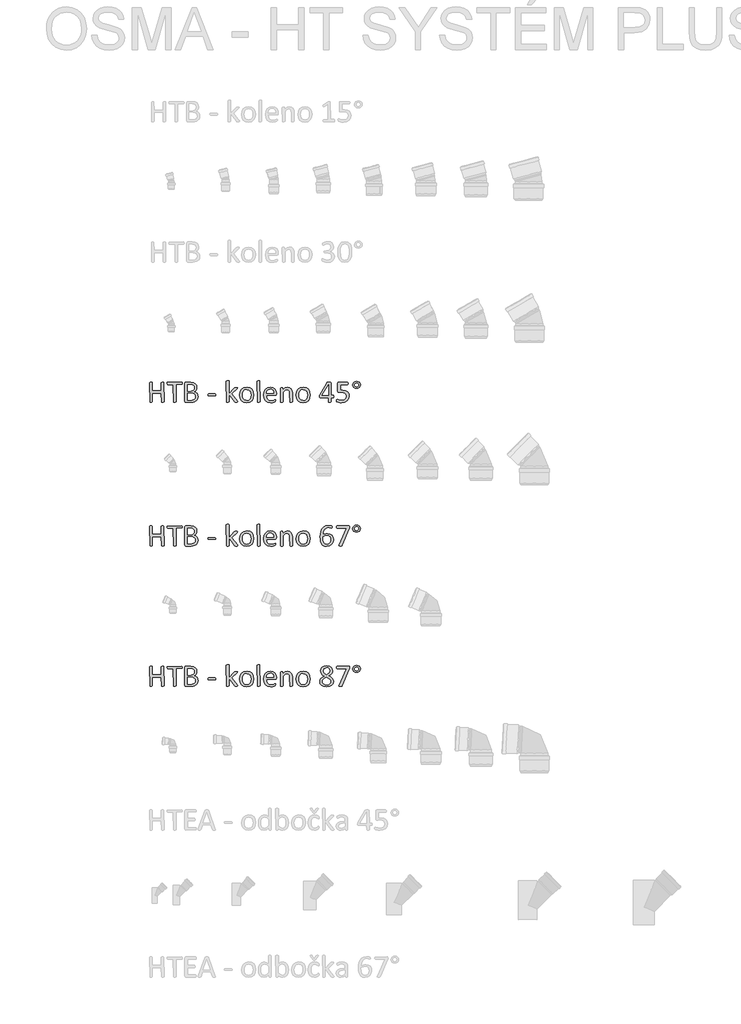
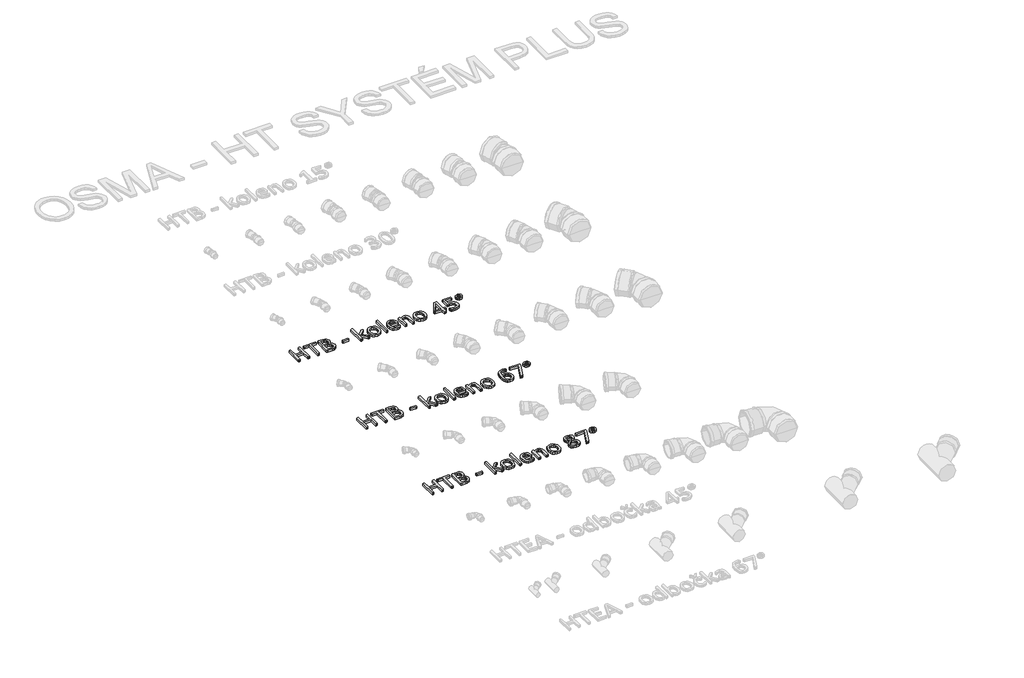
# One storey, part 24 of 26: 3 proxies.
"""IFC4 building model written with IfcOpenShell, lengths in millimetres."""

from ifc_helpers import new_model, si_unit, origin, origin_with_axes, place, context, project, spatial, polyline, outline, extrude, element, save

model = new_model("IFC4")

# Units and contexts
model_context = context("Model", 3, world=origin())
ifc_project = project(units=[si_unit("LENGTHUNIT", "METRE", prefix="MILLI")], contexts=[model_context])

# Site, building, storey
site = spatial("IfcSite", under=ifc_project)
building = spatial("IfcBuilding", under=site)
storey = spatial("IfcBuildingStorey", under=building, Name="Podlaží 1", Elevation=0.0)

# Proxies
placement = place(None, origin())
element("IfcBuildingElementProxy", 1, Name="120mm Arial", ObjectType="120mm Arial", at=placement, inside=storey, context=model_context, shape_type="SweptSolid", body=[
    extrude(outline(polyline([(-20465.0657483, 20468.0506997), (-20469.2817655, 20465.3184311), (-20473.1358927, 20465.0832026), (-20477.1166815, 20465.3184311), (-20479.5775327, 20465.8612659), (-20481.2784151, 20520.6694889), (-20534.5486061, 20520.6694889), (-20534.5486061, 20468.0145107), (-20538.7465288, 20465.3184311), (-20542.6549395, 20465.0832026), (-20546.5271613, 20465.3184311), (-20549.0603905, 20465.8793604), (-20550.7612729, 20582.5526591), (-20546.5271613, 20585.2849277), (-20542.6549395, 20585.5201562), (-20538.7465288, 20585.2849277), (-20536.2494886, 20584.7239984), (-20534.5486061, 20534.5660604), (-20481.2784151, 20534.5660604), (-20481.2784151, 20582.5526591), (-20477.1166815, 20585.2849277), (-20473.1358927, 20585.5201562), (-20469.2817655, 20585.2849277), (-20466.7666308, 20584.7239984), (-20465.0657483, 20468.0506997)])), origin_with_axes(), (0.0, 0.0, 1.0), 15.0),
    extrude(outline(polyline([(-20356.2092711, 20578.4633034), (-20356.390216, 20575.3329559), (-20356.9873343, 20573.1978056), (-20393.2667952, 20571.6235846), (-20393.2667952, 20468.0506997), (-20397.4647179, 20465.3184311), (-20401.3731287, 20465.0832026), (-20405.2453504, 20465.3184311), (-20407.7785796, 20465.8793604), (-20409.4794621, 20571.6235846), (-20443.3885442, 20571.6235846), (-20446.3017578, 20575.3329559), (-20446.5369862, 20578.4633034), (-20446.3017578, 20581.6660289), (-20445.686545, 20583.9097462), (-20359.3939021, 20585.5201562), (-20357.0054288, 20583.9097462), (-20356.390216, 20581.6660289), (-20356.2092711, 20578.4633034)])), origin_with_axes(), (0.0, 0.0, 1.0), 15.0),
    extrude(outline(polyline([(-20261.2493654, 20499.1370408), (-20262.6788305, 20488.8231791), (-20266.6958082, 20480.3187668), (-20272.9203142, 20473.7142764), (-20281.1352146, 20468.9373299), (-20290.9243359, 20466.0422108), (-20302.8667021, 20465.0832026), (-20334.0977991, 20465.0832026), (-20338.0966824, 20466.5307622), (-20339.9966043, 20471.5972206), (-20339.9966043, 20579.0061382), (-20338.0785879, 20584.0725966), (-20334.0254212, 20585.5201562), (-20306.6665459, 20585.5201562), (-20288.9520361, 20583.4392893), (-20277.4620322, 20577.3957283), (-20270.531841, 20567.6608904), (-20268.1976512, 20554.61476), (-20269.2290374, 20546.3093872), (-20272.2508179, 20538.981117), (-20277.2810873, 20532.9737449), (-20284.2293731, 20528.6310663), (-20275.2545039, 20525.2835849), (-20267.9805173, 20519.0771734), (-20263.0588148, 20510.2651547), (-20261.2493654, 20499.1370408)]), holes=[polyline([(-20284.410318, 20552.4434207), (-20285.6226491, 20560.4411872), (-20289.4224929, 20566.5028427), (-20296.1898338, 20570.3026865), (-20307.2455697, 20571.6235846), (-20323.7839374, 20571.6235846), (-20323.7839374, 20532.2499652), (-20305.5808763, 20532.2499652), (-20295.5565265, 20533.8965641), (-20289.241548, 20538.3116207), (-20285.5683657, 20544.7894497), (-20284.410318, 20552.4434207)]), polyline([(-20277.4620322, 20498.9922848), (-20279.1629147, 20508.3290438), (-20284.1389006, 20515.0963847), (-20292.353801, 20519.2581183), (-20304.7847185, 20520.6694889), (-20323.7839374, 20520.6694889), (-20323.7839374, 20478.9797742), (-20300.7315518, 20478.9797742), (-20291.2138479, 20480.2644833), (-20284.0665226, 20484.0643271), (-20279.2171982, 20490.3250221), (-20277.4620322, 20498.9922848)])]), origin_with_axes(), (0.0, 0.0, 1.0), 15.0),
    extrude(outline(polyline([(-20154.7089835, 20510.2832492), (-20155.5594247, 20505.7234367), (-20158.0383704, 20504.4568221), (-20197.6291238, 20504.4568221), (-20200.1804474, 20505.7596256), (-20201.0308887, 20510.2832492), (-20200.1804474, 20514.7706838), (-20197.6291238, 20516.0372984), (-20158.0383704, 20516.0372984), (-20154.9442119, 20512.9974233), (-20154.7089835, 20510.2832492)])), origin_with_axes(), (0.0, 0.0, 1.0), 15.0),
    extrude(outline(polyline([(-20022.6915536, 20468.0145107), (-20026.7628148, 20465.2641476), (-20030.7616981, 20465.0832026), (-20034.8872427, 20465.2279586), (-20037.6376059, 20465.6803209), (-20039.4470553, 20466.5850457), (-20040.7136699, 20468.0145107), (-20075.9617446, 20513.5764471), (-20075.9617446, 20467.9059437), (-20080.0872893, 20465.2641476), (-20084.104267, 20465.0832026), (-20088.0488668, 20465.2641476), (-20090.545907, 20465.8250769), (-20092.1744114, 20591.8170401), (-20088.0488668, 20594.6035923), (-20084.104267, 20594.7845372), (-20080.0872893, 20594.6035923), (-20077.6445326, 20594.0426629), (-20076.3598235, 20593.1017492), (-20075.9617446, 20515.6754085), (-20043.7535449, 20549.9101915), (-20042.1431349, 20551.4120346), (-20040.1165516, 20552.4072317), (-20037.3299995, 20552.9500666), (-20033.4396832, 20553.0948225), (-20029.4588945, 20552.9500666), (-20026.8713818, 20552.4977042), (-20025.4419168, 20551.683452), (-20025.6409562, 20548.1550256), (-20027.758012, 20545.6037019), (-20059.7490778, 20515.7839754), (-20024.9714599, 20472.3210003), (-20023.216294, 20469.8058656), (-20022.6915536, 20468.0145107)])), origin_with_axes(), (0.0, 0.0, 1.0), 15.0),
    extrude(outline(polyline([(-19927.731648, 20509.9937373), (-19930.4096331, 20491.0126129), (-19938.4254941, 20476.0665606), (-19951.7792308, 20466.2774393), (-19970.3622764, 20462.7671074), (-19988.2758256, 20465.8612659), (-20001.0143496, 20474.8542295), (-20008.6140371, 20489.1850689), (-20011.1110773, 20508.2928548), (-20008.4692812, 20527.2739793), (-20000.5077037, 20542.201937), (-19987.2082505, 20551.9367749), (-19968.5890159, 20555.4109178), (-19950.6573722, 20552.3167593), (-19937.9188482, 20543.3237956), (-19930.2829717, 20528.9929562), (-19927.731648, 20509.9937373)]), holes=[polyline([(-19943.9443148, 20508.9080676), (-19945.1928349, 20521.4837411), (-19949.3002851, 20531.8699808), (-19957.0266341, 20538.9268335), (-19969.2042287, 20541.5143462), (-19980.7666105, 20539.1439675), (-19988.728188, 20532.4490046), (-19993.378473, 20522.2075209), (-19994.8984105, 20509.2699575), (-19993.6498904, 20496.6219061), (-19989.5062512, 20486.2718554), (-19981.7256187, 20479.2511916), (-19969.5661186, 20476.6636789), (-19958.0399258, 20479.0340577), (-19950.0240649, 20485.6747371), (-19945.4099688, 20495.8800318), (-19943.9443148, 20508.9080676)])]), origin_with_axes(), (0.0, 0.0, 1.0), 15.0),
    extrude(outline(polyline([(-19890.6741238, 20467.9421327), (-19894.7996685, 20465.2641476), (-19898.8166462, 20465.0832026), (-19902.761246, 20465.2641476), (-19905.2582862, 20465.8250769), (-19906.8867906, 20591.8170401), (-19902.761246, 20594.6035923), (-19898.8166462, 20594.7845372), (-19894.7996685, 20594.6035923), (-19892.3569118, 20594.0426629), (-19890.6741238, 20467.9421327)])), origin_with_axes(), (0.0, 0.0, 1.0), 15.0),
    extrude(outline(polyline([(-19791.0820276, 20513.3955022), (-19792.8733826, 20508.2928548), (-19796.9808328, 20506.7729173), (-19851.3005044, 20506.7729173), (-19849.9434173, 20493.3829916), (-19845.4378883, 20483.1776969), (-19837.2229879, 20476.6274899), (-19824.8463539, 20474.3475837), (-19814.5686811, 20475.4151588), (-19806.7518596, 20477.8217266), (-19801.3416059, 20480.2282943), (-19798.1388804, 20481.2958695), (-19795.8408796, 20478.4007504), (-19795.7142182, 20475.7589542), (-19795.8046906, 20473.8228433), (-19800.2559362, 20468.4306841), (-19806.6071037, 20465.9336439), (-19815.6543508, 20463.7442101), (-19826.6196143, 20462.7671074), (-19844.2979351, 20465.6622265), (-19857.0545536, 20474.2752057), (-19864.8713751, 20488.6241396), (-19867.5131712, 20508.6547447), (-19864.7447136, 20528.1967985), (-19856.7650417, 20542.8895278), (-19844.1712737, 20552.1720033), (-19827.632906, 20555.4109178), (-19810.9859713, 20552.2805703), (-19799.6769124, 20543.848536), (-19793.1628945, 20531.4176184), (-19791.0820276, 20516.1820543), (-19791.0820276, 20513.3955022)]), holes=[polyline([(-19807.2946945, 20518.3533936), (-19808.466313, 20528.9793853), (-19812.4878143, 20537.0450061), (-19819.2596788, 20542.1340826), (-19828.6823866, 20543.8304415), (-19838.326752, 20541.7314801), (-19845.2569433, 20536.1402814), (-19849.5815275, 20528.0158535), (-19851.3005044, 20518.3533936), (-19807.2946945, 20518.3533936)])]), origin_with_axes(), (0.0, 0.0, 1.0), 15.0),
    extrude(outline(polyline([(-19696.122122, 20467.9421327), (-19700.2476667, 20465.2641476), (-19704.1922664, 20465.0832026), (-19708.2092441, 20465.2641476), (-19710.6520008, 20465.8069824), (-19712.3347888, 20516.2906213), (-19713.402364, 20527.6539636), (-19716.4965225, 20535.0908008), (-19721.7620203, 20539.8677472), (-19729.2350464, 20541.5143462), (-19740.2184044, 20537.479274), (-19751.7084082, 20525.6273803), (-19751.7084082, 20467.9421327), (-19755.8339529, 20465.2641476), (-19759.8509306, 20465.0832026), (-19763.7955304, 20465.2641476), (-19766.2925706, 20465.8069824), (-19767.921075, 20550.2720814), (-19764.1936092, 20552.9500666), (-19760.5385214, 20553.0948225), (-19756.9558115, 20552.9500666), (-19754.7482833, 20552.4072317), (-19753.2645347, 20539.3791959), (-19739.4222466, 20551.5567905), (-19725.5075806, 20555.4109178), (-19711.683387, 20552.5881767), (-19702.5999509, 20545.0427726), (-19697.623965, 20533.9870366), (-19696.122122, 20518.7514725), (-19696.122122, 20467.9421327)])), origin_with_axes(), (0.0, 0.0, 1.0), 15.0),
    extrude(outline(polyline([(-19589.58174, 20509.9937373), (-19592.2597252, 20491.0126129), (-19600.2755861, 20476.0665606), (-19613.6293228, 20466.2774393), (-19632.2123684, 20462.7671074), (-19650.1259177, 20465.8612659), (-19662.8644416, 20474.8542295), (-19670.4641292, 20489.1850689), (-19672.9611694, 20508.2928548), (-19670.3193732, 20527.2739793), (-19662.3577958, 20542.201937), (-19649.0583425, 20551.9367749), (-19630.439108, 20555.4109178), (-19612.5074642, 20552.3167593), (-19599.7689403, 20543.3237956), (-19592.1330637, 20528.9929562), (-19589.58174, 20509.9937373)]), holes=[polyline([(-19605.7944068, 20508.9080676), (-19607.0429269, 20521.4837411), (-19611.1503771, 20531.8699808), (-19618.8767262, 20538.9268335), (-19631.0543208, 20541.5143462), (-19642.6167026, 20539.1439675), (-19650.57828, 20532.4490046), (-19655.228565, 20522.2075209), (-19656.7485026, 20509.2699575), (-19655.4999825, 20496.6219061), (-19651.3563433, 20486.2718554), (-19643.5757108, 20479.2511916), (-19631.4162107, 20476.6636789), (-19619.8900178, 20479.0340577), (-19611.8741569, 20485.6747371), (-19607.2600609, 20495.8800318), (-19605.7944068, 20508.9080676)])]), origin_with_axes(), (0.0, 0.0, 1.0), 15.0),
    extrude(outline(polyline([(-19447.4313934, 20499.8246315), (-19448.3723071, 20494.7400787), (-19450.9779143, 20492.8763458), (-19464.512596, 20492.8763458), (-19464.512596, 20467.9421327), (-19466.2496674, 20465.8069824), (-19468.7828966, 20465.2641476), (-19472.7636853, 20465.0832026), (-19476.6359071, 20465.2641476), (-19479.1148528, 20465.8069824), (-19480.7252628, 20492.8763458), (-19529.7613421, 20492.8763458), (-19531.6069805, 20493.1658577), (-19532.9278786, 20494.2334328), (-19533.7602254, 20496.4590556), (-19533.9954538, 20500.2227104), (-19533.9049813, 20503.5159084), (-19533.5430914, 20506.175799), (-19532.8012172, 20508.4918943), (-19531.7155475, 20510.862273), (-19488.9763522, 20582.6974151), (-19487.6011706, 20583.9640297), (-19485.2488864, 20584.8687544), (-19481.7023655, 20585.3754002), (-19476.7444741, 20585.5201562), (-19471.2437478, 20585.2849277), (-19467.4619985, 20584.6878094), (-19465.2725647, 20583.7288012), (-19464.512596, 20506.7729173), (-19450.9779143, 20506.7729173), (-19448.4084961, 20505.0539404), (-19447.4313934, 20499.8246315)]), holes=[polyline([(-19480.7252628, 20571.5873956), (-19519.4474804, 20506.7729173), (-19480.7252628, 20506.7729173), (-19480.7252628, 20571.5873956)])]), origin_with_axes(), (0.0, 0.0, 1.0), 15.0),
    extrude(outline(polyline([(-19355.6561188, 20502.7197506), (-19358.9312222, 20485.7290205), (-19368.1956033, 20473.189536), (-19382.4540647, 20465.426998), (-19400.8561653, 20462.7671074), (-19411.5138224, 20463.5632651), (-19420.4886915, 20465.535565), (-19426.948426, 20467.8335658), (-19430.169246, 20469.6249207), (-19431.9967899, 20474.2209222), (-19432.0872623, 20477.1341358), (-19431.9425064, 20479.9930659), (-19431.4177661, 20482.0558382), (-19426.4055912, 20482.5262951), (-19421.0496209, 20480.1740108), (-19412.708059, 20477.7855376), (-19400.8923543, 20476.6636789), (-19389.2214055, 20478.129333), (-19380.083686, 20482.743429), (-19374.0582194, 20490.6326285), (-19371.8687856, 20502.1769158), (-19373.6963295, 20512.2736436), (-19379.3056227, 20519.5476302), (-19388.8957046, 20523.8722144), (-19402.7741817, 20525.3016794), (-19412.5994921, 20524.7407501), (-19420.2534631, 20524.1798208), (-19424.0171179, 20525.3921519), (-19425.1389766, 20530.0786259), (-19425.1389766, 20579.4404061), (-19423.691417, 20584.0183131), (-19419.5296834, 20585.5201562), (-19366.1509254, 20585.5201562), (-19363.5453182, 20583.8554627), (-19362.839633, 20581.7203124), (-19362.6044045, 20578.6804373), (-19363.4910348, 20573.469223), (-19365.9699805, 20571.6235846), (-19408.9263097, 20571.6235846), (-19408.9263097, 20536.2307539), (-19402.5751423, 20536.7916832), (-19395.1021162, 20536.8821557), (-19377.8942522, 20534.439399), (-19365.6261851, 20527.5453967), (-19358.189348, 20516.7610781), (-19355.6561188, 20502.7197506)])), origin_with_axes(), (0.0, 0.0, 1.0), 15.0),
    extrude(outline(polyline([(-19288.4893562, 20569.6693792), (-19290.2445222, 20561.4001954), (-19295.1843191, 20554.61476), (-19302.6754397, 20550.073042), (-19312.0121987, 20548.462632), (-19321.2042018, 20549.9463805), (-19328.3696215, 20554.1262087), (-19333.110379, 20560.5859431), (-19334.8112614, 20568.9455995), (-19333.001812, 20577.4500117), (-19328.0258261, 20584.1449746), (-19320.588989, 20588.5419367), (-19311.2884189, 20590.1523467), (-19302.1506994, 20588.6324092), (-19294.9309962, 20584.452581), (-19290.1902387, 20578.0290355), (-19288.4893562, 20569.6693792)]), holes=[polyline([(-19300.0698325, 20569.3436783), (-19300.9383682, 20573.9396799), (-19303.3630305, 20577.6128622), (-19307.0724018, 20580.0194299), (-19311.7588758, 20580.8879656), (-19316.2824993, 20580.0194299), (-19319.9375872, 20577.6128622), (-19322.3622494, 20573.9939633), (-19323.2307851, 20569.5246233), (-19322.3622494, 20564.7114878), (-19319.8833037, 20561.0021165), (-19316.0834599, 20558.5955488), (-19311.3607969, 20557.727013), (-19306.9276458, 20558.6317377), (-19303.3268415, 20561.1287779), (-19300.9383682, 20564.8019603), (-19300.0698325, 20569.3436783)])]), origin_with_axes(), (0.0, 0.0, 1.0), 15.0),
])
element("IfcBuildingElementProxy", 2, Name="120mm Arial", ObjectType="120mm Arial", at=placement, inside=storey, context=model_context, shape_type="SweptSolid", body=[
    extrude(outline(polyline([(-20465.0657483, 19608.0506997), (-20469.2817655, 19605.3184311), (-20473.1358927, 19605.0832026), (-20477.1166815, 19605.3184311), (-20479.5775327, 19605.8612659), (-20481.2784151, 19660.6694889), (-20534.5486061, 19660.6694889), (-20534.5486061, 19608.0145107), (-20538.7465288, 19605.3184311), (-20542.6549395, 19605.0832026), (-20546.5271613, 19605.3184311), (-20549.0603905, 19605.8793604), (-20550.7612729, 19722.5526591), (-20546.5271613, 19725.2849277), (-20542.6549395, 19725.5201562), (-20538.7465288, 19725.2849277), (-20536.2494886, 19724.7239984), (-20534.5486061, 19674.5660604), (-20481.2784151, 19674.5660604), (-20481.2784151, 19722.5526591), (-20477.1166815, 19725.2849277), (-20473.1358927, 19725.5201562), (-20469.2817655, 19725.2849277), (-20466.7666308, 19724.7239984), (-20465.0657483, 19608.0506997)])), origin_with_axes(), (0.0, 0.0, 1.0), 15.0),
    extrude(outline(polyline([(-20356.2092711, 19718.4633034), (-20356.390216, 19715.3329559), (-20356.9873343, 19713.1978056), (-20393.2667952, 19711.6235846), (-20393.2667952, 19608.0506997), (-20397.4647179, 19605.3184311), (-20401.3731287, 19605.0832026), (-20405.2453504, 19605.3184311), (-20407.7785796, 19605.8793604), (-20409.4794621, 19711.6235846), (-20443.3885442, 19711.6235846), (-20446.3017578, 19715.3329559), (-20446.5369862, 19718.4633034), (-20446.3017578, 19721.6660289), (-20445.686545, 19723.9097462), (-20359.3939021, 19725.5201562), (-20357.0054288, 19723.9097462), (-20356.390216, 19721.6660289), (-20356.2092711, 19718.4633034)])), origin_with_axes(), (0.0, 0.0, 1.0), 15.0),
    extrude(outline(polyline([(-20261.2493654, 19639.1370408), (-20262.6788305, 19628.8231791), (-20266.6958082, 19620.3187668), (-20272.9203142, 19613.7142764), (-20281.1352146, 19608.9373299), (-20290.9243359, 19606.0422108), (-20302.8667021, 19605.0832026), (-20334.0977991, 19605.0832026), (-20338.0966824, 19606.5307622), (-20339.9966043, 19611.5972206), (-20339.9966043, 19719.0061382), (-20338.0785879, 19724.0725966), (-20334.0254212, 19725.5201562), (-20306.6665459, 19725.5201562), (-20288.9520361, 19723.4392893), (-20277.4620322, 19717.3957283), (-20270.531841, 19707.6608904), (-20268.1976512, 19694.61476), (-20269.2290374, 19686.3093872), (-20272.2508179, 19678.981117), (-20277.2810873, 19672.9737449), (-20284.2293731, 19668.6310663), (-20275.2545039, 19665.2835849), (-20267.9805173, 19659.0771734), (-20263.0588148, 19650.2651547), (-20261.2493654, 19639.1370408)]), holes=[polyline([(-20284.410318, 19692.4434207), (-20285.6226491, 19700.4411872), (-20289.4224929, 19706.5028427), (-20296.1898338, 19710.3026865), (-20307.2455697, 19711.6235846), (-20323.7839374, 19711.6235846), (-20323.7839374, 19672.2499652), (-20305.5808763, 19672.2499652), (-20295.5565265, 19673.8965641), (-20289.241548, 19678.3116207), (-20285.5683657, 19684.7894497), (-20284.410318, 19692.4434207)]), polyline([(-20277.4620322, 19638.9922848), (-20279.1629147, 19648.3290438), (-20284.1389006, 19655.0963847), (-20292.353801, 19659.2581183), (-20304.7847185, 19660.6694889), (-20323.7839374, 19660.6694889), (-20323.7839374, 19618.9797742), (-20300.7315518, 19618.9797742), (-20291.2138479, 19620.2644833), (-20284.0665226, 19624.0643271), (-20279.2171982, 19630.3250221), (-20277.4620322, 19638.9922848)])]), origin_with_axes(), (0.0, 0.0, 1.0), 15.0),
    extrude(outline(polyline([(-20154.7089835, 19650.2832492), (-20155.5594247, 19645.7234367), (-20158.0383704, 19644.4568221), (-20197.6291238, 19644.4568221), (-20200.1804474, 19645.7596256), (-20201.0308887, 19650.2832492), (-20200.1804474, 19654.7706838), (-20197.6291238, 19656.0372984), (-20158.0383704, 19656.0372984), (-20154.9442119, 19652.9974233), (-20154.7089835, 19650.2832492)])), origin_with_axes(), (0.0, 0.0, 1.0), 15.0),
    extrude(outline(polyline([(-20022.6915536, 19608.0145107), (-20026.7628148, 19605.2641476), (-20030.7616981, 19605.0832026), (-20034.8872427, 19605.2279586), (-20037.6376059, 19605.6803209), (-20039.4470553, 19606.5850457), (-20040.7136699, 19608.0145107), (-20075.9617446, 19653.5764471), (-20075.9617446, 19607.9059437), (-20080.0872893, 19605.2641476), (-20084.104267, 19605.0832026), (-20088.0488668, 19605.2641476), (-20090.545907, 19605.8250769), (-20092.1744114, 19731.8170401), (-20088.0488668, 19734.6035923), (-20084.104267, 19734.7845372), (-20080.0872893, 19734.6035923), (-20077.6445326, 19734.0426629), (-20076.3598235, 19733.1017492), (-20075.9617446, 19655.6754085), (-20043.7535449, 19689.9101915), (-20042.1431349, 19691.4120346), (-20040.1165516, 19692.4072317), (-20037.3299995, 19692.9500666), (-20033.4396832, 19693.0948225), (-20029.4588945, 19692.9500666), (-20026.8713818, 19692.4977042), (-20025.4419168, 19691.683452), (-20025.6409562, 19688.1550256), (-20027.758012, 19685.6037019), (-20059.7490778, 19655.7839754), (-20024.9714599, 19612.3210003), (-20023.216294, 19609.8058656), (-20022.6915536, 19608.0145107)])), origin_with_axes(), (0.0, 0.0, 1.0), 15.0),
    extrude(outline(polyline([(-19927.731648, 19649.9937373), (-19930.4096331, 19631.0126129), (-19938.4254941, 19616.0665606), (-19951.7792308, 19606.2774393), (-19970.3622764, 19602.7671074), (-19988.2758256, 19605.8612659), (-20001.0143496, 19614.8542295), (-20008.6140371, 19629.1850689), (-20011.1110773, 19648.2928548), (-20008.4692812, 19667.2739793), (-20000.5077037, 19682.201937), (-19987.2082505, 19691.9367749), (-19968.5890159, 19695.4109178), (-19950.6573722, 19692.3167593), (-19937.9188482, 19683.3237956), (-19930.2829717, 19668.9929562), (-19927.731648, 19649.9937373)]), holes=[polyline([(-19943.9443148, 19648.9080676), (-19945.1928349, 19661.4837411), (-19949.3002851, 19671.8699808), (-19957.0266341, 19678.9268335), (-19969.2042287, 19681.5143462), (-19980.7666105, 19679.1439675), (-19988.728188, 19672.4490046), (-19993.378473, 19662.2075209), (-19994.8984105, 19649.2699575), (-19993.6498904, 19636.6219061), (-19989.5062512, 19626.2718554), (-19981.7256187, 19619.2511916), (-19969.5661186, 19616.6636789), (-19958.0399258, 19619.0340577), (-19950.0240649, 19625.6747371), (-19945.4099688, 19635.8800318), (-19943.9443148, 19648.9080676)])]), origin_with_axes(), (0.0, 0.0, 1.0), 15.0),
    extrude(outline(polyline([(-19890.6741238, 19607.9421327), (-19894.7996685, 19605.2641476), (-19898.8166462, 19605.0832026), (-19902.761246, 19605.2641476), (-19905.2582862, 19605.8250769), (-19906.8867906, 19731.8170401), (-19902.761246, 19734.6035923), (-19898.8166462, 19734.7845372), (-19894.7996685, 19734.6035923), (-19892.3569118, 19734.0426629), (-19890.6741238, 19607.9421327)])), origin_with_axes(), (0.0, 0.0, 1.0), 15.0),
    extrude(outline(polyline([(-19791.0820276, 19653.3955022), (-19792.8733826, 19648.2928548), (-19796.9808328, 19646.7729173), (-19851.3005044, 19646.7729173), (-19849.9434173, 19633.3829916), (-19845.4378883, 19623.1776969), (-19837.2229879, 19616.6274899), (-19824.8463539, 19614.3475837), (-19814.5686811, 19615.4151588), (-19806.7518596, 19617.8217266), (-19801.3416059, 19620.2282943), (-19798.1388804, 19621.2958695), (-19795.8408796, 19618.4007504), (-19795.7142182, 19615.7589542), (-19795.8046906, 19613.8228433), (-19800.2559362, 19608.4306841), (-19806.6071037, 19605.9336439), (-19815.6543508, 19603.7442101), (-19826.6196143, 19602.7671074), (-19844.2979351, 19605.6622265), (-19857.0545536, 19614.2752057), (-19864.8713751, 19628.6241396), (-19867.5131712, 19648.6547447), (-19864.7447136, 19668.1967985), (-19856.7650417, 19682.8895278), (-19844.1712737, 19692.1720033), (-19827.632906, 19695.4109178), (-19810.9859713, 19692.2805703), (-19799.6769124, 19683.848536), (-19793.1628945, 19671.4176184), (-19791.0820276, 19656.1820543), (-19791.0820276, 19653.3955022)]), holes=[polyline([(-19807.2946945, 19658.3533936), (-19808.466313, 19668.9793853), (-19812.4878143, 19677.0450061), (-19819.2596788, 19682.1340826), (-19828.6823866, 19683.8304415), (-19838.326752, 19681.7314801), (-19845.2569433, 19676.1402814), (-19849.5815275, 19668.0158535), (-19851.3005044, 19658.3533936), (-19807.2946945, 19658.3533936)])]), origin_with_axes(), (0.0, 0.0, 1.0), 15.0),
    extrude(outline(polyline([(-19696.122122, 19607.9421327), (-19700.2476667, 19605.2641476), (-19704.1922664, 19605.0832026), (-19708.2092441, 19605.2641476), (-19710.6520008, 19605.8069824), (-19712.3347888, 19656.2906213), (-19713.402364, 19667.6539636), (-19716.4965225, 19675.0908008), (-19721.7620203, 19679.8677472), (-19729.2350464, 19681.5143462), (-19740.2184044, 19677.479274), (-19751.7084082, 19665.6273803), (-19751.7084082, 19607.9421327), (-19755.8339529, 19605.2641476), (-19759.8509306, 19605.0832026), (-19763.7955304, 19605.2641476), (-19766.2925706, 19605.8069824), (-19767.921075, 19690.2720814), (-19764.1936092, 19692.9500666), (-19760.5385214, 19693.0948225), (-19756.9558115, 19692.9500666), (-19754.7482833, 19692.4072317), (-19753.2645347, 19679.3791959), (-19739.4222466, 19691.5567905), (-19725.5075806, 19695.4109178), (-19711.683387, 19692.5881767), (-19702.5999509, 19685.0427726), (-19697.623965, 19673.9870366), (-19696.122122, 19658.7514725), (-19696.122122, 19607.9421327)])), origin_with_axes(), (0.0, 0.0, 1.0), 15.0),
    extrude(outline(polyline([(-19589.58174, 19649.9937373), (-19592.2597252, 19631.0126129), (-19600.2755861, 19616.0665606), (-19613.6293228, 19606.2774393), (-19632.2123684, 19602.7671074), (-19650.1259177, 19605.8612659), (-19662.8644416, 19614.8542295), (-19670.4641292, 19629.1850689), (-19672.9611694, 19648.2928548), (-19670.3193732, 19667.2739793), (-19662.3577958, 19682.201937), (-19649.0583425, 19691.9367749), (-19630.439108, 19695.4109178), (-19612.5074642, 19692.3167593), (-19599.7689403, 19683.3237956), (-19592.1330637, 19668.9929562), (-19589.58174, 19649.9937373)]), holes=[polyline([(-19605.7944068, 19648.9080676), (-19607.0429269, 19661.4837411), (-19611.1503771, 19671.8699808), (-19618.8767262, 19678.9268335), (-19631.0543208, 19681.5143462), (-19642.6167026, 19679.1439675), (-19650.57828, 19672.4490046), (-19655.228565, 19662.2075209), (-19656.7485026, 19649.2699575), (-19655.4999825, 19636.6219061), (-19651.3563433, 19626.2718554), (-19643.5757108, 19619.2511916), (-19631.4162107, 19616.6636789), (-19619.8900178, 19619.0340577), (-19611.8741569, 19625.6747371), (-19607.2600609, 19635.8800318), (-19605.7944068, 19648.9080676)])]), origin_with_axes(), (0.0, 0.0, 1.0), 15.0),
    extrude(outline(polyline([(-19450.6160244, 19643.9501762), (-19453.0225922, 19628.4793837), (-19460.4413348, 19615.3246864), (-19473.1436697, 19606.2050613), (-19491.2924474, 19602.7671074), (-19504.5376172, 19604.6489348), (-19514.5438725, 19610.0049051), (-19521.6188197, 19618.5455063), (-19526.1605378, 19630.1078881), (-19528.621389, 19644.3120661), (-19529.3632633, 19660.8504338), (-19528.549011, 19676.6288328), (-19525.617703, 19692.0453419), (-19519.8998428, 19705.9961969), (-19510.8706902, 19717.3595393), (-19497.8607488, 19725.0135103), (-19480.218617, 19727.8362514), (-19473.3788981, 19727.456267), (-19466.9734472, 19726.4429754), (-19462.0336503, 19725.0496993), (-19459.3918541, 19723.8192737), (-19457.5643102, 19718.2099805), (-19457.6185937, 19715.4958064), (-19457.9804836, 19713.5596955), (-19462.829808, 19712.7454432), (-19467.0096362, 19714.1749083), (-19472.9627248, 19715.6043733), (-19481.0871527, 19716.2557751), (-19495.635126, 19712.5644983), (-19505.5870979, 19702.6487155), (-19511.304958, 19688.2093091), (-19513.4401083, 19671.3814295), (-19508.0298546, 19674.1860761), (-19501.4434587, 19676.6831163), (-19493.9161491, 19678.4925657), (-19485.3936423, 19679.198251), (-19469.0362195, 19676.5202658), (-19458.251901, 19669.1015232), (-19452.3711904, 19657.9191258), (-19450.6160244, 19643.9501762)]), holes=[polyline([(-19466.8286912, 19643.4797194), (-19467.8962664, 19653.4497857), (-19471.4427873, 19661.0856622), (-19478.0834666, 19665.9168922), (-19488.3249504, 19667.6177747), (-19495.1465747, 19667.0025619), (-19501.7510651, 19665.3016794), (-19507.8489096, 19662.7503557), (-19513.1505964, 19659.5838192), (-19511.6306589, 19639.1189463), (-19507.1975078, 19625.9099655), (-19499.9597102, 19618.7988293), (-19489.8086989, 19616.6636789), (-19479.5672152, 19618.9435852), (-19472.3656065, 19625.0595243), (-19468.1676838, 19633.6725035), (-19466.8286912, 19643.4797194)])]), origin_with_axes(), (0.0, 0.0, 1.0), 15.0),
    extrude(outline(polyline([(-19353.3400235, 19718.7166263), (-19353.4847795, 19715.7129403), (-19353.8647638, 19713.1254276), (-19354.5161656, 19710.7369544), (-19355.4751738, 19708.2941977), (-19398.9743379, 19608.7021015), (-19400.1323856, 19606.8926521), (-19401.905646, 19605.7888879), (-19404.6560091, 19605.2279586), (-19408.7453648, 19605.0832026), (-19413.7032562, 19605.35462), (-19416.2726744, 19606.2412503), (-19416.9783597, 19607.7249988), (-19416.3088634, 19609.8239601), (-19370.602171, 19711.6235846), (-19428.5407415, 19711.6235846), (-19431.2006321, 19713.469223), (-19432.0872623, 19718.6080594), (-19431.8520339, 19721.6660289), (-19431.1463486, 19723.8192737), (-19430.02449, 19725.1039828), (-19358.189348, 19725.5201562), (-19355.9094417, 19725.2487387), (-19354.4075987, 19724.1449746), (-19353.6114409, 19722.0279188), (-19353.3400235, 19718.7166263)])), origin_with_axes(), (0.0, 0.0, 1.0), 15.0),
    extrude(outline(polyline([(-19288.4893562, 19709.6693792), (-19290.2445222, 19701.4001954), (-19295.1843191, 19694.61476), (-19302.6754397, 19690.073042), (-19312.0121987, 19688.462632), (-19321.2042018, 19689.9463805), (-19328.3696215, 19694.1262087), (-19333.110379, 19700.5859431), (-19334.8112614, 19708.9455995), (-19333.001812, 19717.4500117), (-19328.0258261, 19724.1449746), (-19320.588989, 19728.5419367), (-19311.2884189, 19730.1523467), (-19302.1506994, 19728.6324092), (-19294.9309962, 19724.452581), (-19290.1902387, 19718.0290355), (-19288.4893562, 19709.6693792)]), holes=[polyline([(-19300.0698325, 19709.3436783), (-19300.9383682, 19713.9396799), (-19303.3630305, 19717.6128622), (-19307.0724018, 19720.0194299), (-19311.7588758, 19720.8879656), (-19316.2824993, 19720.0194299), (-19319.9375872, 19717.6128622), (-19322.3622494, 19713.9939633), (-19323.2307851, 19709.5246233), (-19322.3622494, 19704.7114878), (-19319.8833037, 19701.0021165), (-19316.0834599, 19698.5955488), (-19311.3607969, 19697.727013), (-19306.9276458, 19698.6317377), (-19303.3268415, 19701.1287779), (-19300.9383682, 19704.8019603), (-19300.0698325, 19709.3436783)])]), origin_with_axes(), (0.0, 0.0, 1.0), 15.0),
])
element("IfcBuildingElementProxy", 3, Name="120mm Arial", ObjectType="120mm Arial", at=placement, inside=storey, context=model_context, shape_type="SweptSolid", body=[
    extrude(outline(polyline([(-20465.0657483, 18768.0506997), (-20469.2817655, 18765.3184311), (-20473.1358927, 18765.0832026), (-20477.1166815, 18765.3184311), (-20479.5775327, 18765.8612659), (-20481.2784151, 18820.6694889), (-20534.5486061, 18820.6694889), (-20534.5486061, 18768.0145107), (-20538.7465288, 18765.3184311), (-20542.6549395, 18765.0832026), (-20546.5271613, 18765.3184311), (-20549.0603905, 18765.8793604), (-20550.7612729, 18882.5526591), (-20546.5271613, 18885.2849277), (-20542.6549395, 18885.5201562), (-20538.7465288, 18885.2849277), (-20536.2494886, 18884.7239984), (-20534.5486061, 18834.5660604), (-20481.2784151, 18834.5660604), (-20481.2784151, 18882.5526591), (-20477.1166815, 18885.2849277), (-20473.1358927, 18885.5201562), (-20469.2817655, 18885.2849277), (-20466.7666308, 18884.7239984), (-20465.0657483, 18768.0506997)])), origin_with_axes(), (0.0, 0.0, 1.0), 15.0),
    extrude(outline(polyline([(-20356.2092711, 18878.4633034), (-20356.390216, 18875.3329559), (-20356.9873343, 18873.1978056), (-20393.2667952, 18871.6235846), (-20393.2667952, 18768.0506997), (-20397.4647179, 18765.3184311), (-20401.3731287, 18765.0832026), (-20405.2453504, 18765.3184311), (-20407.7785796, 18765.8793604), (-20409.4794621, 18871.6235846), (-20443.3885442, 18871.6235846), (-20446.3017578, 18875.3329559), (-20446.5369862, 18878.4633034), (-20446.3017578, 18881.6660289), (-20445.686545, 18883.9097462), (-20359.3939021, 18885.5201562), (-20357.0054288, 18883.9097462), (-20356.390216, 18881.6660289), (-20356.2092711, 18878.4633034)])), origin_with_axes(), (0.0, 0.0, 1.0), 15.0),
    extrude(outline(polyline([(-20261.2493654, 18799.1370408), (-20262.6788305, 18788.8231791), (-20266.6958082, 18780.3187668), (-20272.9203142, 18773.7142764), (-20281.1352146, 18768.9373299), (-20290.9243359, 18766.0422108), (-20302.8667021, 18765.0832026), (-20334.0977991, 18765.0832026), (-20338.0966824, 18766.5307622), (-20339.9966043, 18771.5972206), (-20339.9966043, 18879.0061382), (-20338.0785879, 18884.0725966), (-20334.0254212, 18885.5201562), (-20306.6665459, 18885.5201562), (-20288.9520361, 18883.4392893), (-20277.4620322, 18877.3957283), (-20270.531841, 18867.6608904), (-20268.1976512, 18854.61476), (-20269.2290374, 18846.3093872), (-20272.2508179, 18838.981117), (-20277.2810873, 18832.9737449), (-20284.2293731, 18828.6310663), (-20275.2545039, 18825.2835849), (-20267.9805173, 18819.0771734), (-20263.0588148, 18810.2651547), (-20261.2493654, 18799.1370408)]), holes=[polyline([(-20284.410318, 18852.4434207), (-20285.6226491, 18860.4411872), (-20289.4224929, 18866.5028427), (-20296.1898338, 18870.3026865), (-20307.2455697, 18871.6235846), (-20323.7839374, 18871.6235846), (-20323.7839374, 18832.2499652), (-20305.5808763, 18832.2499652), (-20295.5565265, 18833.8965641), (-20289.241548, 18838.3116207), (-20285.5683657, 18844.7894497), (-20284.410318, 18852.4434207)]), polyline([(-20277.4620322, 18798.9922848), (-20279.1629147, 18808.3290438), (-20284.1389006, 18815.0963847), (-20292.353801, 18819.2581183), (-20304.7847185, 18820.6694889), (-20323.7839374, 18820.6694889), (-20323.7839374, 18778.9797742), (-20300.7315518, 18778.9797742), (-20291.2138479, 18780.2644833), (-20284.0665226, 18784.0643271), (-20279.2171982, 18790.3250221), (-20277.4620322, 18798.9922848)])]), origin_with_axes(), (0.0, 0.0, 1.0), 15.0),
    extrude(outline(polyline([(-20154.7089835, 18810.2832492), (-20155.5594247, 18805.7234367), (-20158.0383704, 18804.4568221), (-20197.6291238, 18804.4568221), (-20200.1804474, 18805.7596256), (-20201.0308887, 18810.2832492), (-20200.1804474, 18814.7706838), (-20197.6291238, 18816.0372984), (-20158.0383704, 18816.0372984), (-20154.9442119, 18812.9974233), (-20154.7089835, 18810.2832492)])), origin_with_axes(), (0.0, 0.0, 1.0), 15.0),
    extrude(outline(polyline([(-20022.6915536, 18768.0145107), (-20026.7628148, 18765.2641476), (-20030.7616981, 18765.0832026), (-20034.8872427, 18765.2279586), (-20037.6376059, 18765.6803209), (-20039.4470553, 18766.5850457), (-20040.7136699, 18768.0145107), (-20075.9617446, 18813.5764471), (-20075.9617446, 18767.9059437), (-20080.0872893, 18765.2641476), (-20084.104267, 18765.0832026), (-20088.0488668, 18765.2641476), (-20090.545907, 18765.8250769), (-20092.1744114, 18891.8170401), (-20088.0488668, 18894.6035923), (-20084.104267, 18894.7845372), (-20080.0872893, 18894.6035923), (-20077.6445326, 18894.0426629), (-20076.3598235, 18893.1017492), (-20075.9617446, 18815.6754085), (-20043.7535449, 18849.9101915), (-20042.1431349, 18851.4120346), (-20040.1165516, 18852.4072317), (-20037.3299995, 18852.9500666), (-20033.4396832, 18853.0948225), (-20029.4588945, 18852.9500666), (-20026.8713818, 18852.4977042), (-20025.4419168, 18851.683452), (-20025.6409562, 18848.1550256), (-20027.758012, 18845.6037019), (-20059.7490778, 18815.7839754), (-20024.9714599, 18772.3210003), (-20023.216294, 18769.8058656), (-20022.6915536, 18768.0145107)])), origin_with_axes(), (0.0, 0.0, 1.0), 15.0),
    extrude(outline(polyline([(-19927.731648, 18809.9937373), (-19930.4096331, 18791.0126129), (-19938.4254941, 18776.0665606), (-19951.7792308, 18766.2774393), (-19970.3622764, 18762.7671074), (-19988.2758256, 18765.8612659), (-20001.0143496, 18774.8542295), (-20008.6140371, 18789.1850689), (-20011.1110773, 18808.2928548), (-20008.4692812, 18827.2739793), (-20000.5077037, 18842.201937), (-19987.2082505, 18851.9367749), (-19968.5890159, 18855.4109178), (-19950.6573722, 18852.3167593), (-19937.9188482, 18843.3237956), (-19930.2829717, 18828.9929562), (-19927.731648, 18809.9937373)]), holes=[polyline([(-19943.9443148, 18808.9080676), (-19945.1928349, 18821.4837411), (-19949.3002851, 18831.8699808), (-19957.0266341, 18838.9268335), (-19969.2042287, 18841.5143462), (-19980.7666105, 18839.1439675), (-19988.728188, 18832.4490046), (-19993.378473, 18822.2075209), (-19994.8984105, 18809.2699575), (-19993.6498904, 18796.6219061), (-19989.5062512, 18786.2718554), (-19981.7256187, 18779.2511916), (-19969.5661186, 18776.6636789), (-19958.0399258, 18779.0340577), (-19950.0240649, 18785.6747371), (-19945.4099688, 18795.8800318), (-19943.9443148, 18808.9080676)])]), origin_with_axes(), (0.0, 0.0, 1.0), 15.0),
    extrude(outline(polyline([(-19890.6741238, 18767.9421327), (-19894.7996685, 18765.2641476), (-19898.8166462, 18765.0832026), (-19902.761246, 18765.2641476), (-19905.2582862, 18765.8250769), (-19906.8867906, 18891.8170401), (-19902.761246, 18894.6035923), (-19898.8166462, 18894.7845372), (-19894.7996685, 18894.6035923), (-19892.3569118, 18894.0426629), (-19890.6741238, 18767.9421327)])), origin_with_axes(), (0.0, 0.0, 1.0), 15.0),
    extrude(outline(polyline([(-19791.0820276, 18813.3955022), (-19792.8733826, 18808.2928548), (-19796.9808328, 18806.7729173), (-19851.3005044, 18806.7729173), (-19849.9434173, 18793.3829916), (-19845.4378883, 18783.1776969), (-19837.2229879, 18776.6274899), (-19824.8463539, 18774.3475837), (-19814.5686811, 18775.4151588), (-19806.7518596, 18777.8217266), (-19801.3416059, 18780.2282943), (-19798.1388804, 18781.2958695), (-19795.8408796, 18778.4007504), (-19795.7142182, 18775.7589542), (-19795.8046906, 18773.8228433), (-19800.2559362, 18768.4306841), (-19806.6071037, 18765.9336439), (-19815.6543508, 18763.7442101), (-19826.6196143, 18762.7671074), (-19844.2979351, 18765.6622265), (-19857.0545536, 18774.2752057), (-19864.8713751, 18788.6241396), (-19867.5131712, 18808.6547447), (-19864.7447136, 18828.1967985), (-19856.7650417, 18842.8895278), (-19844.1712737, 18852.1720033), (-19827.632906, 18855.4109178), (-19810.9859713, 18852.2805703), (-19799.6769124, 18843.848536), (-19793.1628945, 18831.4176184), (-19791.0820276, 18816.1820543), (-19791.0820276, 18813.3955022)]), holes=[polyline([(-19807.2946945, 18818.3533936), (-19808.466313, 18828.9793853), (-19812.4878143, 18837.0450061), (-19819.2596788, 18842.1340826), (-19828.6823866, 18843.8304415), (-19838.326752, 18841.7314801), (-19845.2569433, 18836.1402814), (-19849.5815275, 18828.0158535), (-19851.3005044, 18818.3533936), (-19807.2946945, 18818.3533936)])]), origin_with_axes(), (0.0, 0.0, 1.0), 15.0),
    extrude(outline(polyline([(-19696.122122, 18767.9421327), (-19700.2476667, 18765.2641476), (-19704.1922664, 18765.0832026), (-19708.2092441, 18765.2641476), (-19710.6520008, 18765.8069824), (-19712.3347888, 18816.2906213), (-19713.402364, 18827.6539636), (-19716.4965225, 18835.0908008), (-19721.7620203, 18839.8677472), (-19729.2350464, 18841.5143462), (-19740.2184044, 18837.479274), (-19751.7084082, 18825.6273803), (-19751.7084082, 18767.9421327), (-19755.8339529, 18765.2641476), (-19759.8509306, 18765.0832026), (-19763.7955304, 18765.2641476), (-19766.2925706, 18765.8069824), (-19767.921075, 18850.2720814), (-19764.1936092, 18852.9500666), (-19760.5385214, 18853.0948225), (-19756.9558115, 18852.9500666), (-19754.7482833, 18852.4072317), (-19753.2645347, 18839.3791959), (-19739.4222466, 18851.5567905), (-19725.5075806, 18855.4109178), (-19711.683387, 18852.5881767), (-19702.5999509, 18845.0427726), (-19697.623965, 18833.9870366), (-19696.122122, 18818.7514725), (-19696.122122, 18767.9421327)])), origin_with_axes(), (0.0, 0.0, 1.0), 15.0),
    extrude(outline(polyline([(-19589.58174, 18809.9937373), (-19592.2597252, 18791.0126129), (-19600.2755861, 18776.0665606), (-19613.6293228, 18766.2774393), (-19632.2123684, 18762.7671074), (-19650.1259177, 18765.8612659), (-19662.8644416, 18774.8542295), (-19670.4641292, 18789.1850689), (-19672.9611694, 18808.2928548), (-19670.3193732, 18827.2739793), (-19662.3577958, 18842.201937), (-19649.0583425, 18851.9367749), (-19630.439108, 18855.4109178), (-19612.5074642, 18852.3167593), (-19599.7689403, 18843.3237956), (-19592.1330637, 18828.9929562), (-19589.58174, 18809.9937373)]), holes=[polyline([(-19605.7944068, 18808.9080676), (-19607.0429269, 18821.4837411), (-19611.1503771, 18831.8699808), (-19618.8767262, 18838.9268335), (-19631.0543208, 18841.5143462), (-19642.6167026, 18839.1439675), (-19650.57828, 18832.4490046), (-19655.228565, 18822.2075209), (-19656.7485026, 18809.2699575), (-19655.4999825, 18796.6219061), (-19651.3563433, 18786.2718554), (-19643.5757108, 18779.2511916), (-19631.4162107, 18776.6636789), (-19619.8900178, 18779.0340577), (-19611.8741569, 18785.6747371), (-19607.2600609, 18795.8800318), (-19605.7944068, 18808.9080676)])]), origin_with_axes(), (0.0, 0.0, 1.0), 15.0),
    extrude(outline(polyline([(-19450.6160244, 18795.7352758), (-19453.4025765, 18781.6939483), (-19461.436532, 18771.3077086), (-19474.4102843, 18764.9203522), (-19492.0886052, 18762.7671074), (-19508.7174454, 18764.7394072), (-19521.1664574, 18770.5658344), (-19528.9832789, 18780.0473494), (-19531.6793585, 18792.9125347), (-19529.7975311, 18803.4254359), (-19524.4053718, 18812.2555491), (-19515.7562036, 18819.8190476), (-19504.1395383, 18826.532105), (-19513.8924707, 18832.6661385), (-19521.0578904, 18839.7048968), (-19525.5272305, 18847.8293247), (-19527.047168, 18857.2203672), (-19524.8034507, 18869.1989224), (-19517.9999209, 18878.9156658), (-19506.4013501, 18885.4477782), (-19489.9896438, 18887.8362514), (-19474.4102843, 18885.6287231), (-19463.5716823, 18879.621351), (-19457.2747983, 18870.6464819), (-19455.2482149, 18859.5726514), (-19456.7681525, 18850.3806484), (-19461.219398, 18842.0209921), (-19468.4391012, 18834.6384384), (-19478.2282226, 18828.1967985), (-19466.4306124, 18821.4656466), (-19457.7633496, 18813.9926205), (-19452.4435683, 18805.5424917), (-19450.6160244, 18795.7352758)]), holes=[polyline([(-19471.4608818, 18858.6317377), (-19472.7636853, 18865.9600079), (-19476.5635291, 18871.5512066), (-19482.7699406, 18875.0615385), (-19491.2200694, 18876.2557751), (-19505.8766098, 18871.5331121), (-19510.8345012, 18858.6317377), (-19509.6221701, 18851.683452), (-19505.8585153, 18845.5675129), (-19499.4168753, 18839.9220307), (-19490.1705888, 18834.2041706), (-19476.2921117, 18845.2599065), (-19471.4608818, 18858.6317377)]), polyline([(-19466.8286912, 18793.4553696), (-19468.4029122, 18801.453136), (-19473.1798587, 18808.1661934), (-19481.1595307, 18814.2278489), (-19492.2695501, 18820.307599), (-19502.5110338, 18814.3545104), (-19509.7488315, 18808.2023824), (-19514.0191322, 18801.5436085), (-19515.4666917, 18793.8172595), (-19513.9241361, 18785.5706937), (-19509.2964692, 18779.4321366), (-19501.6017855, 18775.6187219), (-19490.8581796, 18774.3475837), (-19480.4357509, 18775.6322928), (-19472.9084413, 18779.48642), (-19468.3486288, 18785.5480756), (-19466.8286912, 18793.4553696)])]), origin_with_axes(), (0.0, 0.0, 1.0), 15.0),
    extrude(outline(polyline([(-19353.3400235, 18878.7166263), (-19353.4847795, 18875.7129403), (-19353.8647638, 18873.1254276), (-19354.5161656, 18870.7369544), (-19355.4751738, 18868.2941977), (-19398.9743379, 18768.7021015), (-19400.1323856, 18766.8926521), (-19401.905646, 18765.7888879), (-19404.6560091, 18765.2279586), (-19408.7453648, 18765.0832026), (-19413.7032562, 18765.35462), (-19416.2726744, 18766.2412503), (-19416.9783597, 18767.7249988), (-19416.3088634, 18769.8239601), (-19370.602171, 18871.6235846), (-19428.5407415, 18871.6235846), (-19431.2006321, 18873.469223), (-19432.0872623, 18878.6080594), (-19431.8520339, 18881.6660289), (-19431.1463486, 18883.8192737), (-19430.02449, 18885.1039828), (-19358.189348, 18885.5201562), (-19355.9094417, 18885.2487387), (-19354.4075987, 18884.1449746), (-19353.6114409, 18882.0279188), (-19353.3400235, 18878.7166263)])), origin_with_axes(), (0.0, 0.0, 1.0), 15.0),
    extrude(outline(polyline([(-19288.4893562, 18869.6693792), (-19290.2445222, 18861.4001954), (-19295.1843191, 18854.61476), (-19302.6754397, 18850.073042), (-19312.0121987, 18848.462632), (-19321.2042018, 18849.9463805), (-19328.3696215, 18854.1262087), (-19333.110379, 18860.5859431), (-19334.8112614, 18868.9455995), (-19333.001812, 18877.4500117), (-19328.0258261, 18884.1449746), (-19320.588989, 18888.5419367), (-19311.2884189, 18890.1523467), (-19302.1506994, 18888.6324092), (-19294.9309962, 18884.452581), (-19290.1902387, 18878.0290355), (-19288.4893562, 18869.6693792)]), holes=[polyline([(-19300.0698325, 18869.3436783), (-19300.9383682, 18873.9396799), (-19303.3630305, 18877.6128622), (-19307.0724018, 18880.0194299), (-19311.7588758, 18880.8879656), (-19316.2824993, 18880.0194299), (-19319.9375872, 18877.6128622), (-19322.3622494, 18873.9939633), (-19323.2307851, 18869.5246233), (-19322.3622494, 18864.7114878), (-19319.8833037, 18861.0021165), (-19316.0834599, 18858.5955488), (-19311.3607969, 18857.727013), (-19306.9276458, 18858.6317377), (-19303.3268415, 18861.1287779), (-19300.9383682, 18864.8019603), (-19300.0698325, 18869.3436783)])]), origin_with_axes(), (0.0, 0.0, 1.0), 15.0),
])

save(model, "model.ifc")
